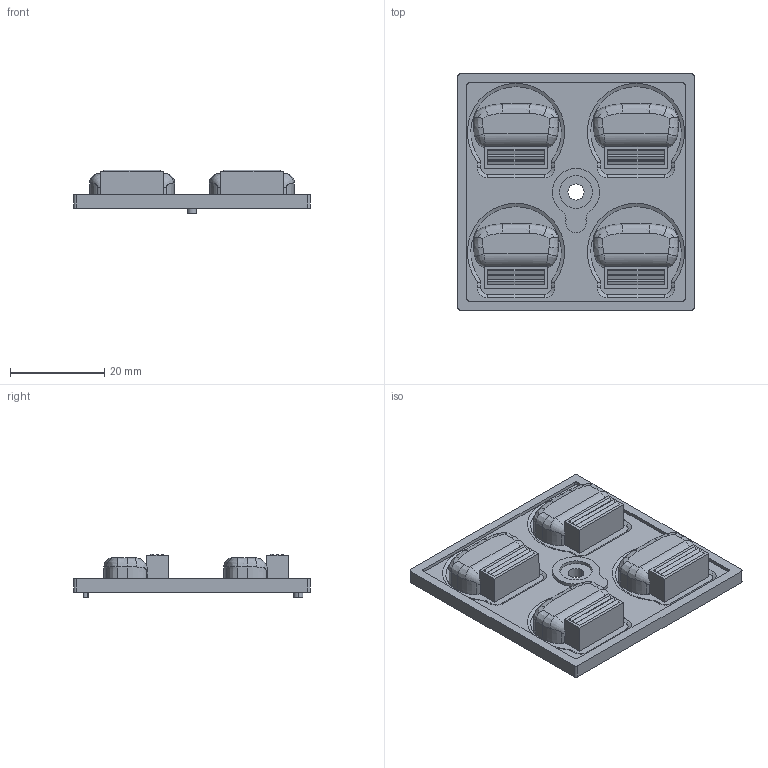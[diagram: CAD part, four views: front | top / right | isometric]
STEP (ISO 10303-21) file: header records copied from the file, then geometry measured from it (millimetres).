
FILE_DESCRIPTION(('Creo Elements/Direct Modeling STEP Export'),'2;1');
FILE_NAME('95500.stp','2021-09-23T18:26:13',(''),(''),'Creo Elements/Direct Modeling STEP processor for AP214 (Solid Model)','Creo Elements/Direct Modeling 20.1B 02-Apr-2019 (C) Parametric Technology GmbH','');
FILE_SCHEMA(('AUTOMOTIVE_DESIGN { 1 0 10303 214 1 1 1 1 }'));
Length unit declared in the file: millimetre
Products named in the file (2): 95500
Assembly tree (1 placements, depth 2):
  95500
    95500
Bounding box: 50 x 50 x 9.29 mm (x, y, z)
Volume: 9125 mm3; surface area: 7398.6 mm2
Topology: 1 solids, 1 shells, 451 faces, 1156 edges, 755 vertices
Faces by surface type: plane 244, cylinder 83, bspline 52, extrusion 36, cone 28, torus 8
Entity records: 33413 total; most frequent: CARTESIAN_POINT 22908, ORIENTED_EDGE 2312, DIRECTION 1670, EDGE_CURVE 1156, VERTEX_POINT 755, VECTOR 710, LINE 674, EDGE_LOOP 501
